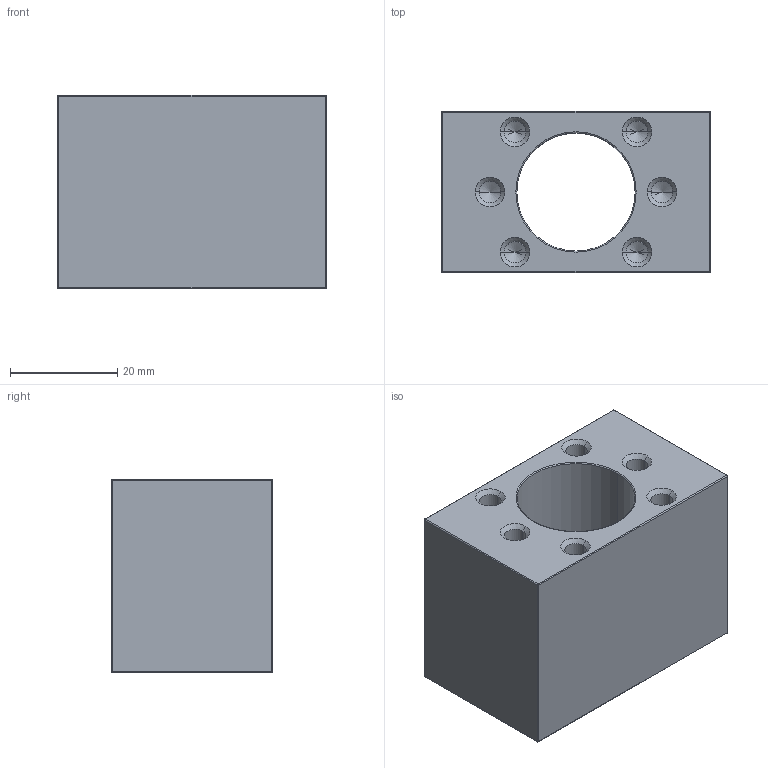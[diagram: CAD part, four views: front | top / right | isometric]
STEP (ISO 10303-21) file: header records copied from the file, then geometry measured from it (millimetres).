
FILE_DESCRIPTION (( 'STEP AP214' ), '1' );
FILE_NAME ('MSG12.STEP', '2020-09-08T07:02:58', ( '' ), ( '' ), 'SwSTEP 2.0', 'SolidWorks 2018', '' );
FILE_SCHEMA (( 'AUTOMOTIVE_DESIGN' ));
Length unit declared in the file: millimetre
Products named in the file (1): MSG12
Bounding box: 50 x 30.1 x 36 mm (x, y, z)
Volume: 38363.2 mm3; surface area: 12088.2 mm2
Topology: 1 solids, 1 shells, 248 faces, 633 edges, 384 vertices
Faces by surface type: plane 124, cone 40, bspline 38, cylinder 34, sphere 8, torus 4
Entity records: 10971 total; most frequent: CARTESIAN_POINT 3580, ORIENTED_EDGE 1210, DIRECTION 1047, EDGE_CURVE 605, LINE 433, VECTOR 433, VERTEX_POINT 384, AXIS2_PLACEMENT_3D 307
